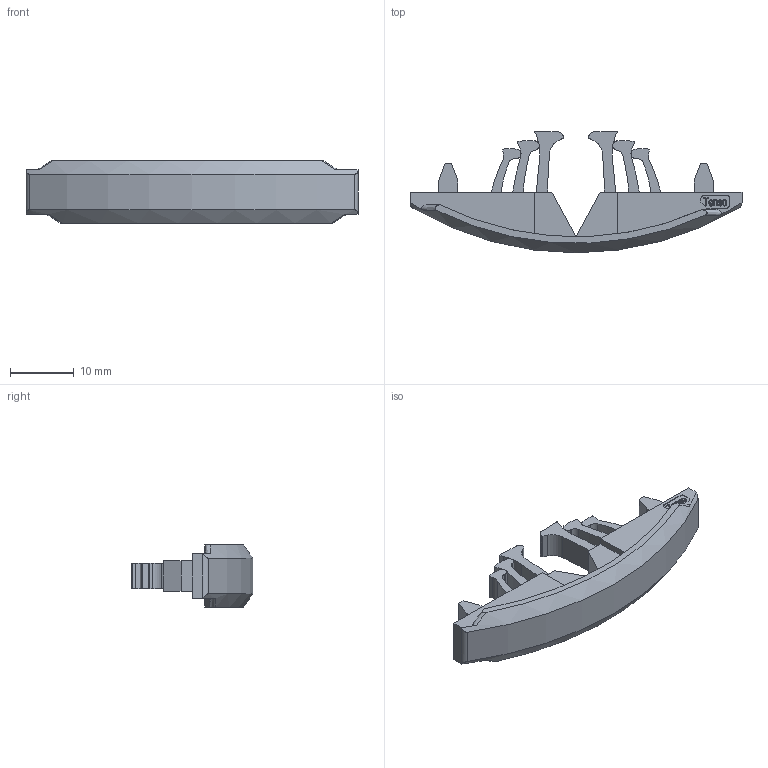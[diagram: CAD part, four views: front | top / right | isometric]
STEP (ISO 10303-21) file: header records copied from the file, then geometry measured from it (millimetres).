
FILE_DESCRIPTION(/* description */ (''),/* implementation_level */ '2;1');
FILE_NAME(/* name */ 'C:\Users\matthiask.LAMELLONET\Desktop\Öfftentliche Daten\CAD-Tenso P-10\Tenso_P-10_Verbinderhaelfte_mit_Feder.stp',/* time_stamp */ '2022-07-04T08:33:50+02:00',/* author */ ('matthiask'),/* organization */ (''),/* preprocessor_version */ 'ST-DEVELOPER v18',/* originating_system */ 'Autodesk Inventor 2020',/* authorisation */ '');
FILE_SCHEMA (('AUTOMOTIVE_DESIGN { 1 0 10303 214 3 1 1 }'));
Length unit declared in the file: millimetre
Products named in the file (1): Tenso P-10 Federteil
Bounding box: 52 x 19.06 x 9.8 mm (x, y, z)
Volume: 2917 mm3; surface area: 2445 mm2
Topology: 1 solids, 1 shells, 289 faces, 776 edges, 516 vertices
Faces by surface type: plane 149, bspline 86, cylinder 52, cone 2
Entity records: 9857 total; most frequent: CARTESIAN_POINT 3082, ORIENTED_EDGE 1552, DIRECTION 1104, EDGE_CURVE 776, VERTEX_POINT 516, LINE 472, VECTOR 472, EDGE_LOOP 316
